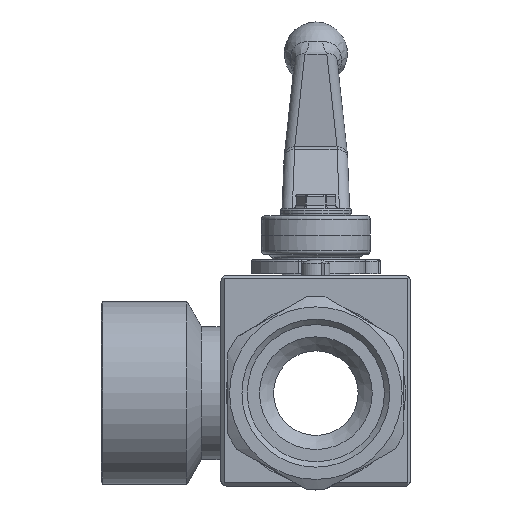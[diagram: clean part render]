
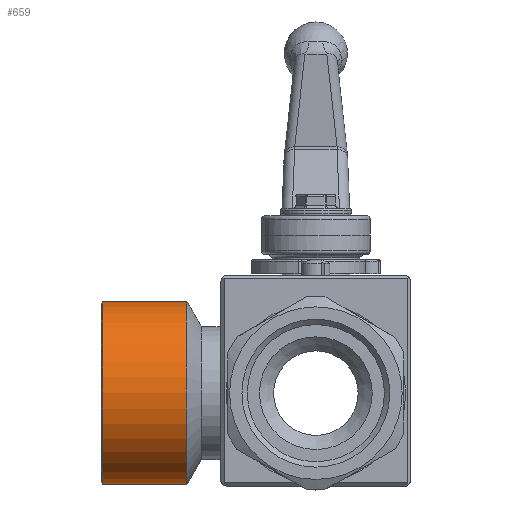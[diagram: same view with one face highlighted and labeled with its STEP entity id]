
A CAD part, front view. The second image highlights one B-rep face of the part: STEP entity #659.
In plain terms, the highlighted cylindrical face has radius 26 mm (diameter 52 mm), a full revolution.
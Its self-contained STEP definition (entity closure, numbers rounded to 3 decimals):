
#659 = ADVANCED_FACE( '', ( #1511, #1512 ), #1513, .T. );
#1511 = FACE_OUTER_BOUND( '', #2778, .T. );
#1512 = FACE_OUTER_BOUND( '', #2779, .T. );
#1513 = CYLINDRICAL_SURFACE( '', #2780, 26. );
#2778 = EDGE_LOOP( '', ( #5007 ) );
#2779 = EDGE_LOOP( '', ( #5008 ) );
#2780 = AXIS2_PLACEMENT_3D( '', #5009, #5010, #5011 );
#5007 = ORIENTED_EDGE( '', *, *, #7888, .T. );
#5008 = ORIENTED_EDGE( '', *, *, #7889, .F. );
#5009 = CARTESIAN_POINT( '', ( 0., -37., 0. ) );
#5010 = DIRECTION( '', ( 0., -1., 0. ) );
#5011 = DIRECTION( '', ( 0., 0., 1. ) );
#7888 = EDGE_CURVE( '', #9191, #9191, #9192, .T. );
#7889 = EDGE_CURVE( '', #9193, #9193, #9194, .T. );
#9191 = VERTEX_POINT( '', #11158 );
#9192 = CIRCLE( '', #11159, 26. );
#9193 = VERTEX_POINT( '', #11160 );
#9194 = CIRCLE( '', #11161, 26. );
#11158 = CARTESIAN_POINT( '', ( 0., -0.5, -26. ) );
#11159 = AXIS2_PLACEMENT_3D( '', #14050, #14051, #14052 );
#11160 = CARTESIAN_POINT( '', ( 0., -24.401, -26. ) );
#11161 = AXIS2_PLACEMENT_3D( '', #14053, #14054, #14055 );
#14050 = CARTESIAN_POINT( '', ( 0., -0.5, 0. ) );
#14051 = DIRECTION( '', ( 0., -1., 0. ) );
#14052 = DIRECTION( '', ( 0., 0., -1. ) );
#14053 = CARTESIAN_POINT( '', ( 0., -24.401, 0. ) );
#14054 = DIRECTION( '', ( 0., -1., 0. ) );
#14055 = DIRECTION( '', ( 0., 0., -1. ) );
